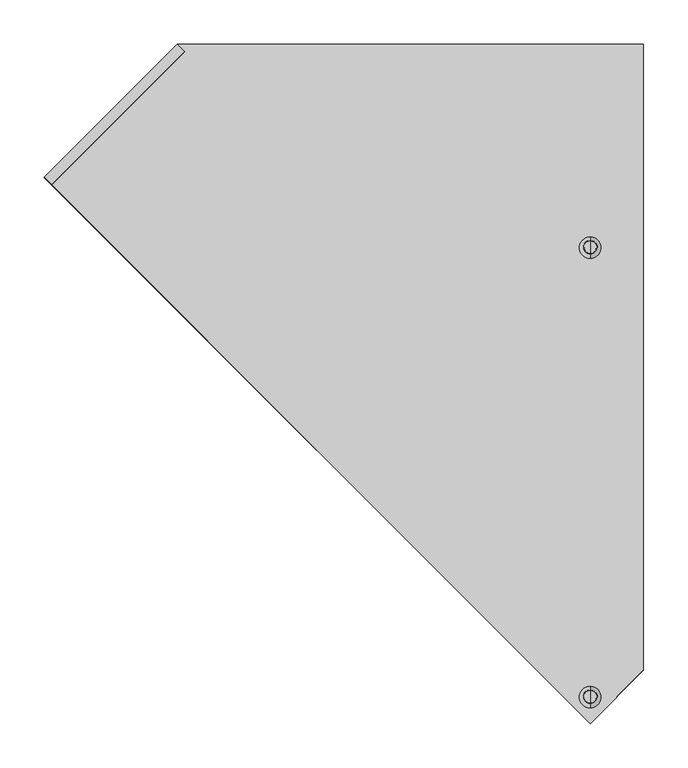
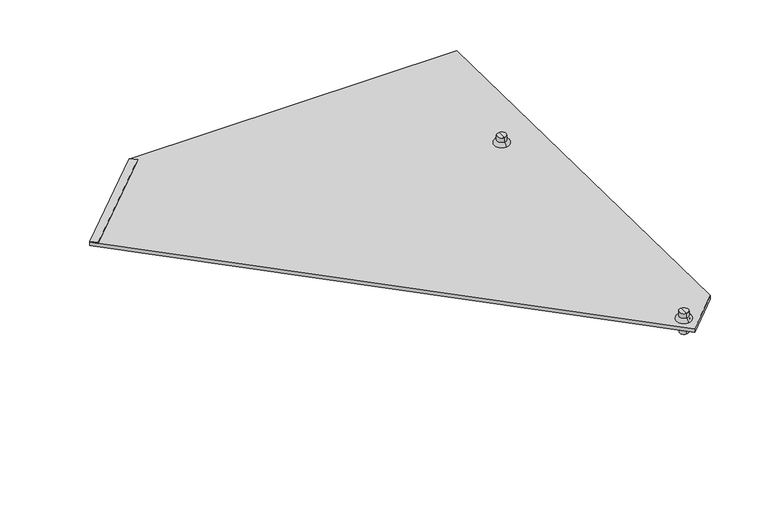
"""IFC4 building model written with IfcOpenShell, lengths in millimetres: proxy geometry, Roofing_Panels_SunStyle_Tuile_Coin-Haut-Grand-Droit : Coin Haut Grand Droit - Noir."""

from ifc_helpers import new_model, si_unit, point, frame, frame_2d, origin, place, context, project, spatial, polyline, circle_curve, ellipse_curve, trimmed, segment, composite_curve, outline, extrude, source, transform, mapped, element, save
from ifc_brep_helpers import plane_surface, cylinder_surface, revolved_surface, advanced_brep


def generic_models_07bce5d7(model_context):
    return source(origin(), model_context, "Body", "SolidModel", [
        extrude(outline(polyline([(0.0, -11.9999999), (0.0, 0.0), (211.9535765, 0.0), (211.9535765, -11.9999999), (0.0, -11.9999999)])), frame((-615.2694709, -0.1135393, 16.3055258), z_axis=(0.0, 0.01674516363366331, 0.9998597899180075), x_axis=(0.7071563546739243, 0.7069580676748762, -0.011839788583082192)), (0.0, 0.0, 1.0), 1.5),
        advanced_brep(
        [(0.0, -85.8978443, 17.7421994), (0.0, -72.5647638, 17.5189035), (0.0, -72.9330728, -4.4729659), (0.0, -86.2661534, -4.2496699), (0.0, -91.3970731, 17.8342978), (0.0, -67.0655349, 17.4268051), (0.0, -86.4480768, 22.7481046), (0.0, -71.8472139, 22.5035765), (0.0, -79.0136169, 30.6287287), (0.0, -71.7131854, 30.5064647), (0.0, -86.3140484, 30.7509928), (0.0, -79.5996131, -4.3613179)],
        [
            (0, 1, circle_curve(frame((0.0, -79.231304, 17.6305515), z_axis=(0.0, -0.016745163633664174, -0.9998597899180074), x_axis=(0.0, 0.9998597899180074, -0.016745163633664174)), 6.6674751)),
            (1, 2),
            (2, 3, circle_curve(frame((0.0, -79.5996131, -4.3613179), z_axis=(0.0, 0.016745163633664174, 0.9998597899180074), x_axis=(0.0, 0.9998597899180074, -0.016745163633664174)), 6.6674751)),
            (3, 0),
            (1, 0, circle_curve(frame((0.0, -79.231304, 17.6305515), z_axis=(0.0, -0.016745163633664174, -0.9998597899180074), x_axis=(0.0, 0.9998597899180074, -0.016745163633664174)), 6.6674751)),
            (3, 2, circle_curve(frame((0.0, -79.5996131, -4.3613179), z_axis=(0.0, 0.016745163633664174, 0.9998597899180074), x_axis=(0.0, 0.9998597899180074, -0.016745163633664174)), 6.6674751)),
            (4, 5, circle_curve(frame((0.0, -79.231304, 17.6305515), z_axis=(0.0, -0.016745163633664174, -0.9998597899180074), x_axis=(0.0, 0.9998597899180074, -0.016745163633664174)), 12.1674751)),
            (5, 1),
            (0, 4),
            (5, 4, circle_curve(frame((0.0, -79.231304, 17.6305515), z_axis=(0.0, -0.016745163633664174, -0.9998597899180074), x_axis=(0.0, 0.9998597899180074, -0.016745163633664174)), 12.1674751)),
            (6, 7, circle_curve(frame((0.0, -79.1476454, 22.6258405), z_axis=(0.0, -0.016745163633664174, -0.9998597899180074), x_axis=(0.0, 0.9998597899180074, -0.016745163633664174)), 7.3014552)),
            (7, 5, circle_curve(frame((0.0, -72.1514118, 17.4268051), z_axis=(-1.0, 0.0, 0.0), x_axis=(0.0, -1.0, 0.0)), 5.0858769)),
            (4, 6, circle_curve(frame((0.0, -86.3140484, 17.663994), z_axis=(-1.0, 0.0, 0.0), x_axis=(0.0, 0.9994391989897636, -0.03348563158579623)), 5.0858769)),
            (7, 6, circle_curve(frame((0.0, -79.1476454, 22.6258405), z_axis=(0.0, -0.016745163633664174, -0.9998597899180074), x_axis=(0.0, 0.9998597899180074, -0.016745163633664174)), 7.3014552)),
            (8, 9),
            (9, 10, circle_curve(frame((0.0, -79.0136169, 30.6287287), z_axis=(0.0, 0.016745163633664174, 0.9998597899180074), x_axis=(0.0, 0.9998597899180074, -0.016745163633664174)), 7.3014552)),
            (10, 8),
            (10, 9, circle_curve(frame((0.0, -79.0136169, 30.6287287), z_axis=(0.0, 0.016745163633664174, 0.9998597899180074), x_axis=(0.0, 0.9998597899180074, -0.016745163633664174)), 7.3014552)),
            (2, 11),
            (11, 3),
            (9, 7),
            (6, 10),
        ],
        [
            cylinder_surface(frame((0.0, -79.0136169, 30.6287287), z_axis=(0.0, 0.016745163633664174, 0.9998597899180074), x_axis=(0.0, 0.9998597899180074, -0.016745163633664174)), 6.6674751),
            plane_surface(frame((0.0, -79.231304, 17.6305515), z_axis=(0.0, -0.016745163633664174, -0.9998597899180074), x_axis=(0.0, 0.9998597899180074, -0.016745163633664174))),
            revolved_surface(trimmed(ellipse_curve(frame((0.0, -72.1514118, 17.4268051), z_axis=(1.0, 0.0, 0.0), x_axis=(0.0, -1.0, 0.0)), 5.0858769, 5.0858769), [point((0.0, -67.0655349, 17.4268051))], [point((0.0, -71.8472139, 22.5035765))], True, "CARTESIAN"), (0.0, -79.0136169, 30.6287287), (0.0, 0.016745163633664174, 0.9998597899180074)),
            plane_surface(frame((0.0, -79.0136169, 30.6287287), z_axis=(0.0, 0.016745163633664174, 0.9998597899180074), x_axis=(0.0, 0.9998597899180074, -0.016745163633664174))),
            plane_surface(frame((0.0, -79.5996131, -4.3613179), z_axis=(0.0, -0.016745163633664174, -0.9998597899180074), x_axis=(0.0, 0.9998597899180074, -0.016745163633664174))),
            cylinder_surface(frame((0.0, -79.0136169, 30.6287287), z_axis=(0.0, 0.016745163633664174, 0.9998597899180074), x_axis=(0.0, 0.9998597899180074, -0.016745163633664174)), 7.3014552),
        ],
        [
            (0, [[1, 2, 3, 4]]),
            (0, [[5, -4, 6, -2]]),
            (1, [[7, 8, -1, 9]]),
            (1, [[10, -9, -5, -8]]),
            (2, [[11, 12, -7, 13]]),
            (2, [[14, -13, -10, -12]]),
            (3, [[15, 16, 17]]),
            (3, [[-17, 18, -15]]),
            (4, [[-3, 19, 20]]),
            (4, [[-6, -20, -19]]),
            (5, [[-16, 21, -11, 22]]),
            (5, [[-18, -22, -14, -21]]),
        ],
    ),
        advanced_brep(
        [(0.0, -592.202006, 26.2215343), (0.0, -578.8689254, 25.9982384), (0.0, -579.2372345, 4.0063691), (0.0, -592.5703151, 4.229665), (0.0, -597.7012348, 26.3136327), (0.0, -573.3696966, 25.90614), (0.0, -592.7522385, 31.2274395), (0.0, -578.1513756, 30.9829114), (0.0, -585.3177786, 39.1080636), (0.0, -578.0173471, 38.9857996), (0.0, -592.6182101, 39.2303277), (0.0, -585.9037748, 4.118017)],
        [
            (0, 1, circle_curve(frame((0.0, -585.5354657, 26.1098864), z_axis=(0.0, -0.016745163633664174, -0.9998597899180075), x_axis=(0.0, 0.9998597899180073, -0.01674516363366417)), 6.6674751)),
            (1, 2),
            (2, 3, circle_curve(frame((0.0, -585.9037748, 4.118017), z_axis=(0.0, 0.016745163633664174, 0.9998597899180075), x_axis=(0.0, 0.9998597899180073, -0.01674516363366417)), 6.6674751)),
            (3, 0),
            (1, 0, circle_curve(frame((0.0, -585.5354657, 26.1098864), z_axis=(0.0, -0.016745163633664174, -0.9998597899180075), x_axis=(0.0, 0.9998597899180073, -0.01674516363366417)), 6.6674751)),
            (3, 2, circle_curve(frame((0.0, -585.9037748, 4.118017), z_axis=(0.0, 0.016745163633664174, 0.9998597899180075), x_axis=(0.0, 0.9998597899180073, -0.01674516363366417)), 6.6674751)),
            (4, 5, circle_curve(frame((0.0, -585.5354657, 26.1098864), z_axis=(0.0, -0.016745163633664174, -0.9998597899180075), x_axis=(0.0, 0.9998597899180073, -0.01674516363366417)), 12.1674751)),
            (5, 1),
            (0, 4),
            (5, 4, circle_curve(frame((0.0, -585.5354657, 26.1098864), z_axis=(0.0, -0.016745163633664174, -0.9998597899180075), x_axis=(0.0, 0.9998597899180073, -0.01674516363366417)), 12.1674751)),
            (6, 7, circle_curve(frame((0.0, -585.451807, 31.1051755), z_axis=(0.0, -0.016745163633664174, -0.9998597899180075), x_axis=(0.0, 0.9998597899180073, -0.01674516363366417)), 7.3014552)),
            (7, 5, circle_curve(frame((0.0, -578.4555735, 25.90614), z_axis=(-1.0, 0.0, 0.0), x_axis=(0.0, -1.0, 0.0)), 5.0858769)),
            (4, 6, circle_curve(frame((0.0, -592.6182101, 26.1433289), z_axis=(-1.0, 0.0, 0.0), x_axis=(0.0, 0.9994391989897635, -0.03348563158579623)), 5.0858769)),
            (7, 6, circle_curve(frame((0.0, -585.451807, 31.1051755), z_axis=(0.0, -0.016745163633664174, -0.9998597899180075), x_axis=(0.0, 0.9998597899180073, -0.01674516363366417)), 7.3014552)),
            (8, 9),
            (9, 10, circle_curve(frame((0.0, -585.3177786, 39.1080636), z_axis=(0.0, 0.016745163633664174, 0.9998597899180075), x_axis=(0.0, 0.9998597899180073, -0.01674516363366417)), 7.3014552)),
            (10, 8),
            (10, 9, circle_curve(frame((0.0, -585.3177786, 39.1080636), z_axis=(0.0, 0.016745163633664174, 0.9998597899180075), x_axis=(0.0, 0.9998597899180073, -0.01674516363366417)), 7.3014552)),
            (2, 11),
            (11, 3),
            (9, 7),
            (6, 10),
        ],
        [
            cylinder_surface(frame((0.0, -585.3177786, 39.1080636), z_axis=(0.0, 0.01674516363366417, 0.9998597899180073), x_axis=(0.0, 0.9998597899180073, -0.01674516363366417)), 6.6674751),
            plane_surface(frame((0.0, -585.5354657, 26.1098864), z_axis=(0.0, -0.016745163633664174, -0.9998597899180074), x_axis=(0.0, 0.9998597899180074, -0.016745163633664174))),
            revolved_surface(trimmed(ellipse_curve(frame((0.0, -578.4555735, 25.90614), z_axis=(1.0, 0.0, 0.0), x_axis=(0.0, -1.0, 0.0)), 5.0858769, 5.0858769), [point((0.0, -573.3696966, 25.90614))], [point((0.0, -578.1513756, 30.9829114))], True, "CARTESIAN"), (0.0, -585.3177786, 39.1080636), (0.0, 0.01674516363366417, 0.9998597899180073)),
            plane_surface(frame((0.0, -585.3177786, 39.1080636), z_axis=(0.0, 0.016745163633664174, 0.9998597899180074), x_axis=(0.0, 0.9998597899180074, -0.016745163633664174))),
            plane_surface(frame((0.0, -585.9037748, 4.118017), z_axis=(0.0, -0.016745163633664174, -0.9998597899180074), x_axis=(0.0, 0.9998597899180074, -0.016745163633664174))),
            cylinder_surface(frame((0.0, -585.3177786, 39.1080636), z_axis=(0.0, 0.01674516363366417, 0.9998597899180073), x_axis=(0.0, 0.9998597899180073, -0.01674516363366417)), 7.3014552),
        ],
        [
            (0, [[1, 2, 3, 4]]),
            (0, [[5, -4, 6, -2]]),
            (1, [[7, 8, -1, 9]]),
            (1, [[10, -9, -5, -8]]),
            (2, [[11, 12, -7, 13]]),
            (2, [[14, -13, -10, -12]]),
            (3, [[15, 16, 17]]),
            (3, [[-17, 18, -15]]),
            (4, [[-3, 19, 20]]),
            (4, [[-6, -20, -19]]),
            (5, [[-16, 21, -11, 22]]),
            (5, [[-18, -22, -14, -21]]),
        ],
    ),
        extrude(outline(polyline([(735.3672387, 473.3851524), (735.3672387, -52.1037539), (30.4167032, -52.1037539), (-29.678946, 8.0003225), (585.5039355, 623.2694709), (735.3672387, 473.3851524)]), holes=[composite_curve([segment(trimmed(circle_curve(frame_2d((0.0, 8.0)), 8.0), [point((0.0, 16.0))], [point((0.0, 0.0))], True, "CARTESIAN"), True, "CONTINUOUS"), segment(trimmed(circle_curve(frame_2d((0.0, 8.0)), 8.0), [point((0.0, 0.0))], [point((0.0, 16.0))], True, "CARTESIAN"), True, "CONTINUOUS")], self_intersect=False), composite_curve([segment(trimmed(circle_curve(frame_2d((506.4167032, 8.0)), 8.0), [point((506.4167032, 16.0))], [point((506.4167032, 0.0))], True, "CARTESIAN"), True, "CONTINUOUS"), segment(trimmed(circle_curve(frame_2d((506.4167032, 8.0)), 8.0), [point((506.4167032, 0.0))], [point((506.4167032, 16.0))], True, "CARTESIAN"), True, "CONTINUOUS")], self_intersect=False)]), frame((8.0, -585.6358522, 20.1107262), z_axis=(0.0, 0.016745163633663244, 0.9998597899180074), x_axis=(0.0, 0.9998597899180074, -0.016745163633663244)), (0.0, 0.0, 1.0), 6.0),
    ])


if __name__ == "__main__":
    model = new_model("IFC4")
    model_context = context("Model", 3, world=origin())
    ifc_project = project(units=[si_unit("LENGTHUNIT", "METRE", prefix="MILLI")], contexts=[model_context])
    site = spatial("IfcSite", under=ifc_project)
    building = spatial("IfcBuilding", under=site)
    placement = place(None, origin())
    generic_models_shape = generic_models_07bce5d7(model_context)
    element("IfcBuildingElementProxy", 1, Name="Roofing_Panels_SunStyle_Tuile_Coin-Haut-Grand-Droit : Coin Haut Grand Droit - Noir", ObjectType="Roofing_Panels_SunStyle_Tuile_Coin-Haut-Grand-Droit : Coin Haut Grand Droit - Noir", at=placement, inside=building, context=model_context, shape_type="MappedRepresentation", body=[
        mapped(generic_models_shape, transform((0.0, 0.0, 0.0), x_axis=(1.0, 0.0, 0.0), y_axis=(0.0, 1.0, 0.0), z_axis=(0.0, 0.0, 1.0))),
    ])
    save(model, "model.ifc")
